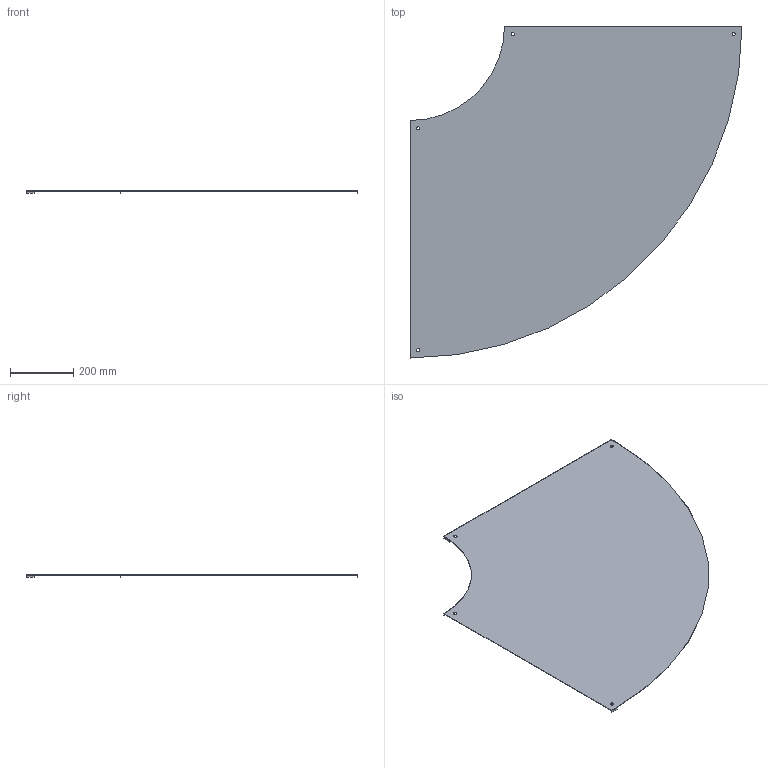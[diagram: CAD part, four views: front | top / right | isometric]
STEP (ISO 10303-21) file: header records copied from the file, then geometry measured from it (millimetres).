
FILE_DESCRIPTION(/* description */ ('','CAx-IF Rec.Pracs.---Representation and Presentation of Product Manufacturing Information (PMI)---4.0---2014-10-13'),/* implementation_level */ '2;1');
FILE_NAME(/* name */ 'Eurostrut_EFBC700-90-300_Cover Bend 90 for Cable Ladder ECL.step',/* time_stamp */ '2026-09-10T08:55:53+02:00',/* author */ (''),/* organization */ (''),/* preprocessor_version */ 'ST-DEVELOPER v20.1',/* originating_system */ 'Autodesk Revit 2027 27.2.0.39',/* authorisation */ '');
FILE_SCHEMA (('AP242_MANAGED_MODEL_BASED_3D_ENGINEERING_MIM_LF { 1 0 10303 442 2 1 4 }'));
Length unit declared in the file: millimetre
Products named in the file (5): TopLevelAssembly; Sweep; Sweep_1; Joined Solid Geometry; Joined Solid Geometry_1
Assembly tree (4 placements, depth 2):
  TopLevelAssembly
    Sweep
    Sweep_1
    Joined Solid Geometry
    Joined Solid Geometry_1
Bounding box: 1052.5 x 1052.5 x 9 mm (x, y, z)
Volume: 1200553.2 mm3; surface area: 1606864.3 mm2
Topology: 9 solids, 9 shells, 66 faces, 144 edges, 96 vertices
Faces by surface type: plane 48, cylinder 18
Entity records: 1904 total; most frequent: DIRECTION 330, CARTESIAN_POINT 315, ORIENTED_EDGE 288, EDGE_CURVE 144, AXIS2_PLACEMENT_3D 111, LINE 108, VECTOR 108, VERTEX_POINT 96
